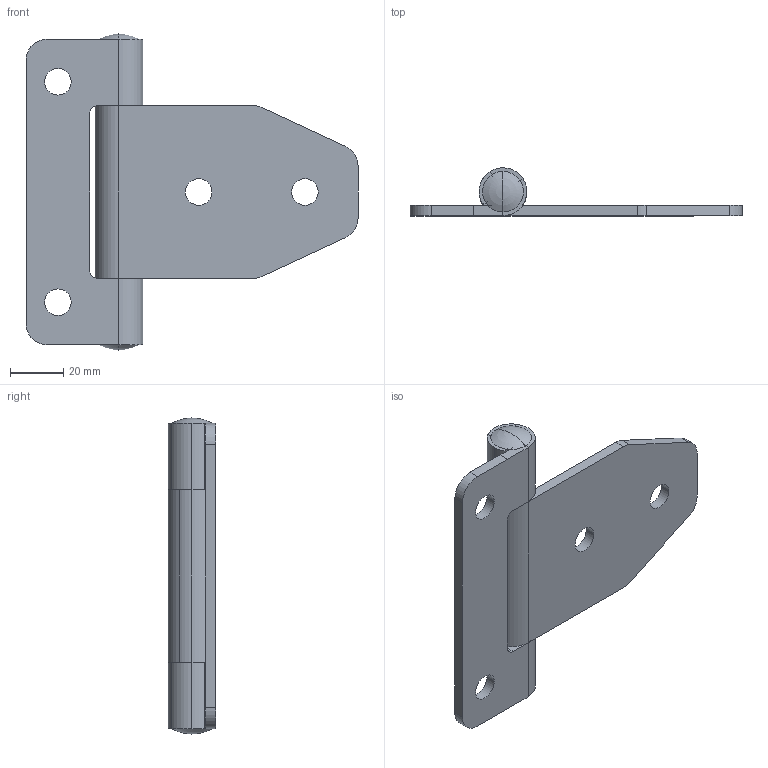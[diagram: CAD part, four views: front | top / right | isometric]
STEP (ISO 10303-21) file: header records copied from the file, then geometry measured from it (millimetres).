
FILE_DESCRIPTION(('STEP AP242'),'1');
FILE_NAME('52-1-4142.stp','2024-03-19T15:36:06',('TraceParts'),('TraceParts S.A.'),'Spatial InterOp 3D',' ',' ');
FILE_SCHEMA(('AP242_MANAGED_MODEL_BASED_3D_ENGINEERING_MIM_LF {1 0 10303 442 1 1 4}'));
Length unit declared in the file: millimetre
Products named in the file (1): 52-1-4142_1
Bounding box: 125 x 17.99 x 119 mm (x, y, z)
Volume: 59041.7 mm3; surface area: 32800.6 mm2
Topology: 3 solids, 3 shells, 89 faces, 231 edges, 146 vertices
Faces by surface type: cylinder 48, plane 37, torus 4
Entity records: 2758 total; most frequent: DIRECTION 517, CARTESIAN_POINT 465, ORIENTED_EDGE 454, EDGE_CURVE 227, AXIS2_PLACEMENT_3D 198, VERTEX_POINT 146, LINE 121, VECTOR 121
